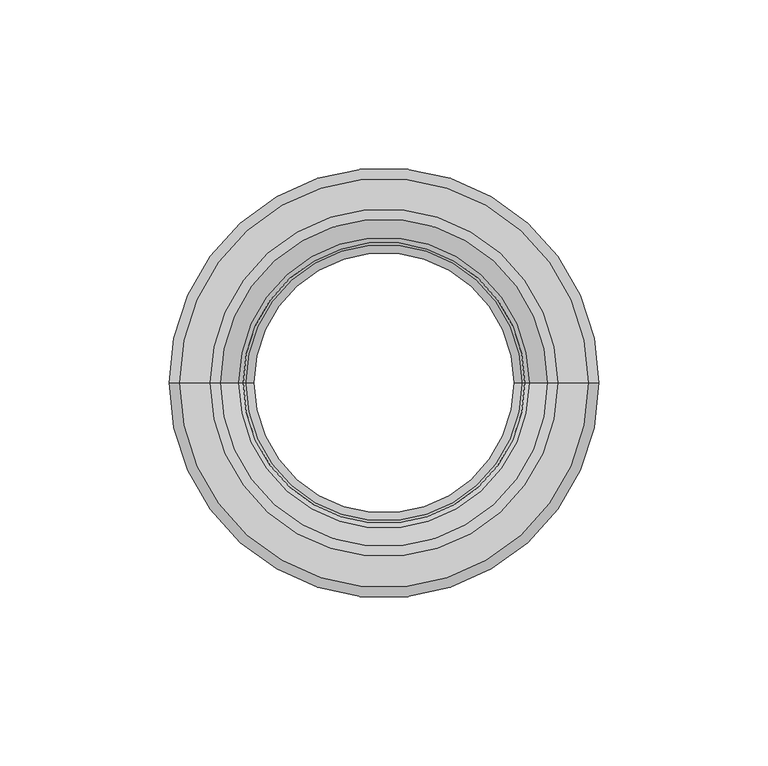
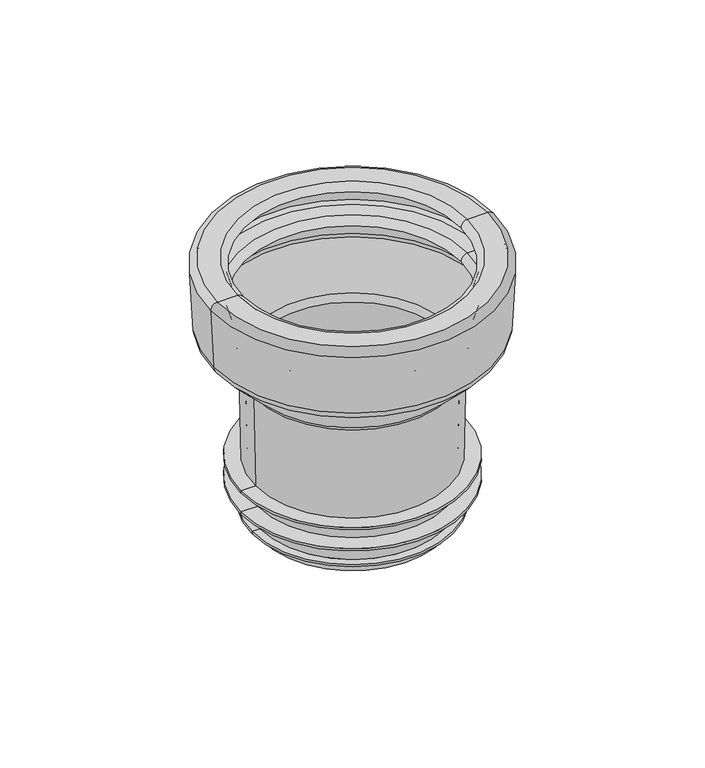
"""IFC4 building model written with IfcOpenShell, lengths in millimetres: sanitary terminal geometry, RSen_52_PIF_UN_closet connector no.2_wisa : closet connector_wisa_no 2 white."""

from ifc_helpers import new_model, si_unit, point, frame, origin, origin_with_axes, place, context, project, spatial, polyline, circle_curve, ellipse_curve, trimmed, source, transform, mapped, element, save
from ifc_brep_helpers import plane_surface, cylinder_surface, revolved_surface, advanced_brep


def sanitary_terminal_77a10053(model_context):
    return source(origin(), model_context, "Body", "AdvancedBrep", [
        advanced_brep(
        [(-40.5, 0.0, -115.0), (40.5, 0.0, -115.0), (40.5, 0.0, -120.0), (-40.5, 0.0, -120.0), (-45.0, 0.0, -115.0), (45.0, 0.0, -115.0), (-45.0, 0.0, -114.0), (45.0, 0.0, -114.0), (-41.5, 0.0, -114.0), (41.5, 0.0, -114.0), (-41.5, 0.0, -104.0), (41.5, 0.0, -104.0), (-50.0, 0.0, -104.0), (50.0, 0.0, -104.0), (-50.0, 0.0, -103.0), (50.0, 0.0, -103.0), (-42.5347753, 0.0, -103.0), (42.5347753, 0.0, -103.0), (-42.5347753, 0.0, -94.0), (42.5347753, 0.0, -94.0), (-50.0, 0.0, -94.0), (50.0, 0.0, -94.0), (-50.0, 0.0, -93.0), (50.0, 0.0, -93.0), (-43.5, 0.0, -93.0), (43.5, 0.0, -93.0), (-44.2364653, 0.0, -50.8079294), (44.2364653, 0.0, -50.8079294), (-44.8219472, 0.0, -49.4286206), (44.8219472, 0.0, -49.4286206), (-60.7059634, 0.0, -33.5446044), (60.7059634, 0.0, -33.5446044), (-62.1635772, 0.0, -30.2707502), (62.1635772, 0.0, -30.2707502), (-63.5845482, 0.0, -3.1570079), (63.5845482, 0.0, -3.1570079), (-60.5886596, 0.0, 0.0), (60.5886596, 0.0, 0.0), (-51.5, 0.0, 0.0), (51.5, 0.0, 0.0), (-48.5, 0.0, -3.0), (48.5, 0.0, -3.0), (-49.3, 0.0, -3.0), (49.3, 0.0, -3.0), (-51.8882757, 0.0, -0.9627838), (51.8882757, 0.0, -0.9627838), (-59.1733581, 0.0, -1.3445787), (59.1733581, 0.0, -1.3445787), (-60.5927984, 0.0, -2.921027), (60.5927984, 0.0, -2.921027), (-59.9818559, 0.0, -14.5785039), (59.9818559, 0.0, -14.5785039), (-58.4839116, 0.0, -16.0), (58.4839116, 0.0, -16.0), (-51.5, 0.0, -16.0), (51.5, 0.0, -16.0), (-48.5, 0.0, -19.0), (48.5, 0.0, -19.0), (-49.3, 0.0, -19.0), (49.3, 0.0, -19.0), (-51.8882757, 0.0, -16.9627838), (51.8882757, 0.0, -16.9627838), (-58.3371304, 0.0, -17.3007539), (58.3371304, 0.0, -17.3007539), (-59.7565707, 0.0, -18.8772021), (59.7565707, 0.0, -18.8772021), (-59.1676886, 0.0, -30.1137424), (59.1676886, 0.0, -30.1137424), (-58.5846431, 0.0, -31.423284), (58.5846431, 0.0, -31.423284), (-43.0734522, 0.0, -46.9344749), (43.0734522, 0.0, -46.9344749), (-41.6097476, 0.0, -50.3827468), (41.6097476, 0.0, -50.3827468), (-40.8667746, 0.0, -92.9476428), (40.8667746, 0.0, -92.9476428), (-38.5, 0.0, -120.0), (38.5, 0.0, -120.0)],
        [
            (0, 1, circle_curve(frame((0.0, 0.0, -115.0), z_axis=(0.0, 0.0, -1.0), x_axis=(1.0, 0.0, 0.0)), 40.5)),
            (1, 2),
            (2, 3, circle_curve(frame((0.0, 0.0, -120.0), z_axis=(0.0, 0.0, 1.0), x_axis=(1.0, 0.0, 0.0)), 40.5)),
            (3, 0),
            (1, 0, circle_curve(frame((0.0, 0.0, -115.0), z_axis=(0.0, 0.0, -1.0), x_axis=(1.0, 0.0, 0.0)), 40.5)),
            (3, 2, circle_curve(frame((0.0, 0.0, -120.0), z_axis=(0.0, 0.0, 1.0), x_axis=(1.0, 0.0, 0.0)), 40.5)),
            (4, 5, circle_curve(frame((0.0, 0.0, -115.0), z_axis=(0.0, 0.0, -1.0), x_axis=(1.0, 0.0, 0.0)), 45.0)),
            (5, 1),
            (0, 4),
            (5, 4, circle_curve(frame((0.0, 0.0, -115.0), z_axis=(0.0, 0.0, -1.0), x_axis=(1.0, 0.0, 0.0)), 45.0)),
            (6, 7, circle_curve(frame((0.0, 0.0, -114.0), z_axis=(0.0, 0.0, -1.0), x_axis=(1.0, 0.0, 0.0)), 45.0)),
            (7, 5),
            (4, 6),
            (7, 6, circle_curve(frame((0.0, 0.0, -114.0), z_axis=(0.0, 0.0, -1.0), x_axis=(1.0, 0.0, 0.0)), 45.0)),
            (8, 9, circle_curve(frame((0.0, 0.0, -114.0), z_axis=(0.0, 0.0, -1.0), x_axis=(1.0, 0.0, 0.0)), 41.5)),
            (9, 7),
            (6, 8),
            (9, 8, circle_curve(frame((0.0, 0.0, -114.0), z_axis=(0.0, 0.0, -1.0), x_axis=(1.0, 0.0, 0.0)), 41.5)),
            (10, 11, circle_curve(frame((0.0, 0.0, -104.0), z_axis=(0.0, 0.0, -1.0), x_axis=(1.0, 0.0, 0.0)), 41.5)),
            (11, 9),
            (8, 10),
            (11, 10, circle_curve(frame((0.0, 0.0, -104.0), z_axis=(0.0, 0.0, -1.0), x_axis=(1.0, 0.0, 0.0)), 41.5)),
            (12, 13, circle_curve(frame((0.0, 0.0, -104.0), z_axis=(0.0, 0.0, -1.0), x_axis=(1.0, 0.0, 0.0)), 50.0)),
            (13, 11),
            (10, 12),
            (13, 12, circle_curve(frame((0.0, 0.0, -104.0), z_axis=(0.0, 0.0, -1.0), x_axis=(1.0, 0.0, 0.0)), 50.0)),
            (14, 15, circle_curve(frame((0.0, 0.0, -103.0), z_axis=(0.0, 0.0, -1.0), x_axis=(1.0, 0.0, 0.0)), 50.0)),
            (15, 13),
            (12, 14),
            (15, 14, circle_curve(frame((0.0, 0.0, -103.0), z_axis=(0.0, 0.0, -1.0), x_axis=(1.0, 0.0, 0.0)), 50.0)),
            (16, 17, circle_curve(frame((0.0, 0.0, -103.0), z_axis=(0.0, 0.0, -1.0), x_axis=(1.0, 0.0, 0.0)), 42.5347753)),
            (17, 15),
            (14, 16),
            (17, 16, circle_curve(frame((0.0, 0.0, -103.0), z_axis=(0.0, 0.0, -1.0), x_axis=(1.0, 0.0, 0.0)), 42.5347753)),
            (18, 19, circle_curve(frame((0.0, 0.0, -94.0), z_axis=(0.0, 0.0, -1.0), x_axis=(1.0, 0.0, 0.0)), 42.5347753)),
            (19, 17),
            (16, 18),
            (19, 18, circle_curve(frame((0.0, 0.0, -94.0), z_axis=(0.0, 0.0, -1.0), x_axis=(1.0, 0.0, 0.0)), 42.5347753)),
            (20, 21, circle_curve(frame((0.0, 0.0, -94.0), z_axis=(0.0, 0.0, -1.0), x_axis=(1.0, 0.0, 0.0)), 50.0)),
            (21, 19),
            (18, 20),
            (21, 20, circle_curve(frame((0.0, 0.0, -94.0), z_axis=(0.0, 0.0, -1.0), x_axis=(1.0, 0.0, 0.0)), 50.0)),
            (22, 23, circle_curve(frame((0.0, 0.0, -93.0), z_axis=(0.0, 0.0, -1.0), x_axis=(1.0, 0.0, 0.0)), 50.0)),
            (23, 21),
            (20, 22),
            (23, 22, circle_curve(frame((0.0, 0.0, -93.0), z_axis=(0.0, 0.0, -1.0), x_axis=(1.0, 0.0, 0.0)), 50.0)),
            (24, 25, circle_curve(frame((0.0, 0.0, -93.0), z_axis=(0.0, 0.0, -1.0), x_axis=(1.0, 0.0, 0.0)), 43.5)),
            (25, 23),
            (22, 24),
            (25, 24, circle_curve(frame((0.0, 0.0, -93.0), z_axis=(0.0, 0.0, -1.0), x_axis=(1.0, 0.0, 0.0)), 43.5)),
            (26, 27, circle_curve(frame((0.0, 0.0, -50.8079294), z_axis=(0.0, 0.0, -1.0), x_axis=(1.0, 0.0, 0.0)), 44.2364653)),
            (27, 25),
            (24, 26),
            (27, 26, circle_curve(frame((0.0, 0.0, -50.8079294), z_axis=(0.0, 0.0, -1.0), x_axis=(1.0, 0.0, 0.0)), 44.2364653)),
            (28, 29, circle_curve(frame((0.0, 0.0, -49.4286206), z_axis=(0.0, 0.0, -1.0), x_axis=(1.0, 0.0, 0.0)), 44.8219472)),
            (29, 27, circle_curve(frame((46.2361607, 0.0, -50.8428342), z_axis=(0.0, -1.0, 0.0), x_axis=(1.0, 0.0, 0.0)), 2.0)),
            (26, 28, circle_curve(frame((-46.2361607, 0.0, -50.8428342), z_axis=(0.0, -1.0, 0.0), x_axis=(-1.0, 0.0, 0.0)), 2.0)),
            (29, 28, circle_curve(frame((0.0, 0.0, -49.4286206), z_axis=(0.0, 0.0, -1.0), x_axis=(1.0, 0.0, 0.0)), 44.8219472)),
            (30, 31, circle_curve(frame((0.0, 0.0, -33.5446044), z_axis=(0.0, 0.0, -1.0), x_axis=(1.0, 0.0, 0.0)), 60.7059634)),
            (31, 29),
            (28, 30),
            (31, 30, circle_curve(frame((0.0, 0.0, -33.5446044), z_axis=(0.0, 0.0, -1.0), x_axis=(1.0, 0.0, 0.0)), 60.7059634)),
            (32, 33, circle_curve(frame((0.0, 0.0, -30.2707502), z_axis=(0.0, 0.0, -1.0), x_axis=(1.0, 0.0, 0.0)), 62.1635772)),
            (33, 31, circle_curve(frame((57.1704295, 0.0, -30.0090705), z_axis=(0.0, 1.0, 0.0), x_axis=(1.0, 0.0, 0.0)), 5.0)),
            (30, 32, circle_curve(frame((-57.1704295, 0.0, -30.0090705), z_axis=(0.0, 1.0, 0.0), x_axis=(-1.0, 0.0, 0.0)), 5.0)),
            (33, 32, circle_curve(frame((0.0, 0.0, -30.2707502), z_axis=(0.0, 0.0, -1.0), x_axis=(1.0, 0.0, 0.0)), 62.1635772)),
            (34, 35, circle_curve(frame((0.0, 0.0, -3.1570079), z_axis=(0.0, 0.0, -1.0), x_axis=(1.0, 0.0, 0.0)), 63.5845482)),
            (35, 33),
            (32, 34),
            (35, 34, circle_curve(frame((0.0, 0.0, -3.1570079), z_axis=(0.0, 0.0, -1.0), x_axis=(1.0, 0.0, 0.0)), 63.5845482)),
            (36, 37, circle_curve(frame((0.0, 0.0, 0.0), z_axis=(0.0, 0.0, -1.0), x_axis=(1.0, 0.0, 0.0)), 60.5886596)),
            (37, 35, circle_curve(frame((60.5886596, 0.0, -3.0), z_axis=(0.0, 1.0, 0.0), x_axis=(1.0, 0.0, 0.0)), 3.0)),
            (34, 36, circle_curve(frame((-60.5886596, 0.0, -3.0), z_axis=(0.0, 1.0, 0.0), x_axis=(-1.0, 0.0, 0.0)), 3.0)),
            (37, 36, circle_curve(frame((0.0, 0.0, 0.0), z_axis=(0.0, 0.0, -1.0), x_axis=(1.0, 0.0, 0.0)), 60.5886596)),
            (38, 39, circle_curve(frame((0.0, 0.0, 0.0), z_axis=(0.0, 0.0, -1.0), x_axis=(1.0, 0.0, 0.0)), 51.5)),
            (39, 37),
            (36, 38),
            (39, 38, circle_curve(frame((0.0, 0.0, 0.0), z_axis=(0.0, 0.0, -1.0), x_axis=(1.0, 0.0, 0.0)), 51.5)),
            (40, 41, circle_curve(frame((0.0, 0.0, -3.0), z_axis=(0.0, 0.0, -1.0), x_axis=(1.0, 0.0, 0.0)), 48.5)),
            (41, 39, circle_curve(frame((51.5, 0.0, -3.0), z_axis=(0.0, 1.0, 0.0), x_axis=(1.0, 0.0, 0.0)), 3.0)),
            (38, 40, circle_curve(frame((-51.5, 0.0, -3.0), z_axis=(0.0, 1.0, 0.0), x_axis=(-1.0, 0.0, 0.0)), 3.0)),
            (41, 40, circle_curve(frame((0.0, 0.0, -3.0), z_axis=(0.0, 0.0, -1.0), x_axis=(1.0, 0.0, 0.0)), 48.5)),
            (42, 43, circle_curve(frame((0.0, 0.0, -3.0), z_axis=(0.0, 0.0, -1.0), x_axis=(1.0, 0.0, 0.0)), 49.3)),
            (43, 41),
            (40, 42),
            (43, 42, circle_curve(frame((0.0, 0.0, -3.0), z_axis=(0.0, 0.0, -1.0), x_axis=(1.0, 0.0, 0.0)), 49.3)),
            (44, 45, circle_curve(frame((0.0, 0.0, -0.9627838), z_axis=(0.0, 0.0, -1.0), x_axis=(1.0, 0.0, 0.0)), 51.8882757)),
            (45, 43, circle_curve(frame((51.7574358, 0.0, -3.4593576), z_axis=(0.0, -1.0, 0.0), x_axis=(1.0, 0.0, 0.0)), 2.5)),
            (42, 44, circle_curve(frame((-51.7574358, 0.0, -3.4593576), z_axis=(0.0, -1.0, 0.0), x_axis=(-1.0, 0.0, 0.0)), 2.5)),
            (45, 44, circle_curve(frame((0.0, 0.0, -0.9627838), z_axis=(0.0, 0.0, -1.0), x_axis=(1.0, 0.0, 0.0)), 51.8882757)),
            (46, 47, circle_curve(frame((0.0, 0.0, -1.3445787), z_axis=(0.0, 0.0, -1.0), x_axis=(1.0, 0.0, 0.0)), 59.1733581)),
            (47, 45),
            (44, 46),
            (47, 46, circle_curve(frame((0.0, 0.0, -1.3445787), z_axis=(0.0, 0.0, -1.0), x_axis=(1.0, 0.0, 0.0)), 59.1733581)),
            (48, 49, circle_curve(frame((0.0, 0.0, -2.921027), z_axis=(0.0, 0.0, -1.0), x_axis=(1.0, 0.0, 0.0)), 60.5927984)),
            (49, 47, circle_curve(frame((59.0948541, 0.0, -2.842523), z_axis=(0.0, -1.0, 0.0), x_axis=(1.0, 0.0, 0.0)), 1.5)),
            (46, 48, circle_curve(frame((-59.0948541, 0.0, -2.842523), z_axis=(0.0, -1.0, 0.0), x_axis=(-1.0, 0.0, 0.0)), 1.5)),
            (49, 48, circle_curve(frame((0.0, 0.0, -2.921027), z_axis=(0.0, 0.0, -1.0), x_axis=(1.0, 0.0, 0.0)), 60.5927984)),
            (50, 51, circle_curve(frame((0.0, 0.0, -14.5785039), z_axis=(0.0, 0.0, -1.0), x_axis=(1.0, 0.0, 0.0)), 59.9818559)),
            (51, 49),
            (48, 50),
            (51, 50, circle_curve(frame((0.0, 0.0, -14.5785039), z_axis=(0.0, 0.0, -1.0), x_axis=(1.0, 0.0, 0.0)), 59.9818559)),
            (52, 53, circle_curve(frame((0.0, 0.0, -16.0), z_axis=(0.0, 0.0, -1.0), x_axis=(1.0, 0.0, 0.0)), 58.4839116)),
            (53, 51, circle_curve(frame((58.4839116, 0.0, -14.5), z_axis=(0.0, -1.0, 0.0), x_axis=(1.0, 0.0, 0.0)), 1.5)),
            (50, 52, circle_curve(frame((-58.4839116, 0.0, -14.5), z_axis=(0.0, -1.0, 0.0), x_axis=(-1.0, 0.0, 0.0)), 1.5)),
            (53, 52, circle_curve(frame((0.0, 0.0, -16.0), z_axis=(0.0, 0.0, -1.0), x_axis=(1.0, 0.0, 0.0)), 58.4839116)),
            (54, 55, circle_curve(frame((0.0, 0.0, -16.0), z_axis=(0.0, 0.0, -1.0), x_axis=(1.0, 0.0, 0.0)), 51.5)),
            (55, 53),
            (52, 54),
            (55, 54, circle_curve(frame((0.0, 0.0, -16.0), z_axis=(0.0, 0.0, -1.0), x_axis=(1.0, 0.0, 0.0)), 51.5)),
            (56, 57, circle_curve(frame((0.0, 0.0, -19.0), z_axis=(0.0, 0.0, -1.0), x_axis=(1.0, 0.0, 0.0)), 48.5)),
            (57, 55, circle_curve(frame((51.5, 0.0, -19.0), z_axis=(0.0, 1.0, 0.0), x_axis=(1.0, 0.0, 0.0)), 3.0)),
            (54, 56, circle_curve(frame((-51.5, 0.0, -19.0), z_axis=(0.0, 1.0, 0.0), x_axis=(-1.0, 0.0, 0.0)), 3.0)),
            (57, 56, circle_curve(frame((0.0, 0.0, -19.0), z_axis=(0.0, 0.0, -1.0), x_axis=(1.0, 0.0, 0.0)), 48.5)),
            (58, 59, circle_curve(frame((0.0, 0.0, -19.0), z_axis=(0.0, 0.0, -1.0), x_axis=(1.0, 0.0, 0.0)), 49.3)),
            (59, 57),
            (56, 58),
            (59, 58, circle_curve(frame((0.0, 0.0, -19.0), z_axis=(0.0, 0.0, -1.0), x_axis=(1.0, 0.0, 0.0)), 49.3)),
            (60, 61, circle_curve(frame((0.0, 0.0, -16.9627838), z_axis=(0.0, 0.0, -1.0), x_axis=(1.0, 0.0, 0.0)), 51.8882757)),
            (61, 59, circle_curve(frame((51.7574358, 0.0, -19.4593576), z_axis=(0.0, -1.0, 0.0), x_axis=(1.0, 0.0, 0.0)), 2.5)),
            (58, 60, circle_curve(frame((-51.7574358, 0.0, -19.4593576), z_axis=(0.0, -1.0, 0.0), x_axis=(-1.0, 0.0, 0.0)), 2.5)),
            (61, 60, circle_curve(frame((0.0, 0.0, -16.9627838), z_axis=(0.0, 0.0, -1.0), x_axis=(1.0, 0.0, 0.0)), 51.8882757)),
            (62, 63, circle_curve(frame((0.0, 0.0, -17.3007539), z_axis=(0.0, 0.0, -1.0), x_axis=(1.0, 0.0, 0.0)), 58.3371304)),
            (63, 61),
            (60, 62),
            (63, 62, circle_curve(frame((0.0, 0.0, -17.3007539), z_axis=(0.0, 0.0, -1.0), x_axis=(1.0, 0.0, 0.0)), 58.3371304)),
            (64, 65, circle_curve(frame((0.0, 0.0, -18.8772021), z_axis=(0.0, 0.0, -1.0), x_axis=(1.0, 0.0, 0.0)), 59.7565707)),
            (65, 63, circle_curve(frame((58.2586264, 0.0, -18.7986982), z_axis=(0.0, -1.0, 0.0), x_axis=(1.0, 0.0, 0.0)), 1.5)),
            (62, 64, circle_curve(frame((-58.2586264, 0.0, -18.7986982), z_axis=(0.0, -1.0, 0.0), x_axis=(-1.0, 0.0, 0.0)), 1.5)),
            (65, 64, circle_curve(frame((0.0, 0.0, -18.8772021), z_axis=(0.0, 0.0, -1.0), x_axis=(1.0, 0.0, 0.0)), 59.7565707)),
            (66, 67, circle_curve(frame((0.0, 0.0, -30.1137424), z_axis=(0.0, 0.0, -1.0), x_axis=(1.0, 0.0, 0.0)), 59.1676886)),
            (67, 65),
            (64, 66),
            (67, 66, circle_curve(frame((0.0, 0.0, -30.1137424), z_axis=(0.0, 0.0, -1.0), x_axis=(1.0, 0.0, 0.0)), 59.1676886)),
            (68, 69, circle_curve(frame((0.0, 0.0, -31.423284), z_axis=(0.0, 0.0, -1.0), x_axis=(1.0, 0.0, 0.0)), 58.5846431)),
            (69, 67, circle_curve(frame((57.1704295, 0.0, -30.0090705), z_axis=(0.0, -1.0, 0.0), x_axis=(1.0, 0.0, 0.0)), 2.0)),
            (66, 68, circle_curve(frame((-57.1704295, 0.0, -30.0090705), z_axis=(0.0, -1.0, 0.0), x_axis=(-1.0, 0.0, 0.0)), 2.0)),
            (69, 68, circle_curve(frame((0.0, 0.0, -31.423284), z_axis=(0.0, 0.0, -1.0), x_axis=(1.0, 0.0, 0.0)), 58.5846431)),
            (70, 71, circle_curve(frame((0.0, 0.0, -46.9344749), z_axis=(0.0, 0.0, -1.0), x_axis=(1.0, 0.0, 0.0)), 43.0734522)),
            (71, 69),
            (68, 70),
            (71, 70, circle_curve(frame((0.0, 0.0, -46.9344749), z_axis=(0.0, 0.0, -1.0), x_axis=(1.0, 0.0, 0.0)), 43.0734522)),
            (72, 73, circle_curve(frame((0.0, 0.0, -50.3827468), z_axis=(0.0, 0.0, -1.0), x_axis=(1.0, 0.0, 0.0)), 41.6097476)),
            (73, 71, circle_curve(frame((46.6089861, 0.0, -50.4700088), z_axis=(0.0, 1.0, 0.0), x_axis=(1.0, 0.0, 0.0)), 5.0)),
            (70, 72, circle_curve(frame((-46.6089861, 0.0, -50.4700088), z_axis=(0.0, 1.0, 0.0), x_axis=(-1.0, 0.0, 0.0)), 5.0)),
            (73, 72, circle_curve(frame((0.0, 0.0, -50.3827468), z_axis=(0.0, 0.0, -1.0), x_axis=(1.0, 0.0, 0.0)), 41.6097476)),
            (74, 75, circle_curve(frame((0.0, 0.0, -92.9476428), z_axis=(0.0, 0.0, -1.0), x_axis=(1.0, 0.0, 0.0)), 40.8667746)),
            (75, 73),
            (72, 74),
            (75, 74, circle_curve(frame((0.0, 0.0, -92.9476428), z_axis=(0.0, 0.0, -1.0), x_axis=(1.0, 0.0, 0.0)), 40.8667746)),
            (76, 77, circle_curve(frame((0.0, 0.0, -120.0), z_axis=(0.0, 0.0, -1.0), x_axis=(1.0, 0.0, 0.0)), 38.5)),
            (77, 75),
            (74, 76),
            (77, 76, circle_curve(frame((0.0, 0.0, -120.0), z_axis=(0.0, 0.0, -1.0), x_axis=(1.0, 0.0, 0.0)), 38.5)),
            (2, 77),
            (76, 3),
        ],
        [
            cylinder_surface(frame((0.0, 0.0, 175.0), z_axis=(0.0, 0.0, 1.0), x_axis=(1.0, 0.0, 0.0)), 40.5),
            plane_surface(frame((0.0, 0.0, -115.0), z_axis=(0.0, 0.0, -1.0), x_axis=(1.0, 0.0, 0.0))),
            cylinder_surface(frame((0.0, 0.0, 175.0), z_axis=(0.0, 0.0, 1.0), x_axis=(1.0, 0.0, 0.0)), 45.0),
            plane_surface(frame((0.0, 0.0, -114.0), z_axis=(0.0, 0.0, 1.0), x_axis=(1.0, 0.0, 0.0))),
            cylinder_surface(frame((0.0, 0.0, 175.0), z_axis=(0.0, 0.0, 1.0), x_axis=(1.0, 0.0, 0.0)), 41.5),
            plane_surface(frame((0.0, 0.0, -104.0), z_axis=(0.0, 0.0, -1.0), x_axis=(1.0, 0.0, 0.0))),
            cylinder_surface(frame((0.0, 0.0, 175.0), z_axis=(0.0, 0.0, 1.0), x_axis=(1.0, 0.0, 0.0)), 50.0),
            plane_surface(frame((0.0, 0.0, -103.0), z_axis=(0.0, 0.0, 1.0), x_axis=(1.0, 0.0, 0.0))),
            cylinder_surface(frame((0.0, 0.0, 175.0), z_axis=(0.0, 0.0, 1.0), x_axis=(1.0, 0.0, 0.0)), 42.5347753),
            plane_surface(frame((0.0, 0.0, -94.0), z_axis=(0.0, 0.0, -1.0), x_axis=(1.0, 0.0, 0.0))),
            plane_surface(frame((0.0, 0.0, -93.0), z_axis=(0.0, 0.0, 1.0), x_axis=(1.0, 0.0, 0.0))),
            revolved_surface(polyline([(43.5, 0.0, -93.0), (44.2364653, 0.0, -50.8079294)]), (0.0, 0.0, 175.0), (0.0, 0.0, 1.0)),
            revolved_surface(trimmed(ellipse_curve(frame((46.2361607, 0.0, -50.8428342), z_axis=(0.0, 1.0, 0.0), x_axis=(1.0, 0.0, 0.0)), 2.0, 2.0), [point((44.2364653, 0.0, -50.8079294))], [point((44.8219472, 0.0, -49.4286206))], True, "CARTESIAN"), (0.0, 0.0, 175.0), (0.0, 0.0, 1.0)),
            revolved_surface(polyline([(44.8219472, 0.0, -49.4286206), (60.7059634, 0.0, -33.5446044)]), (0.0, 0.0, 175.0), (0.0, 0.0, 1.0)),
            revolved_surface(trimmed(ellipse_curve(frame((57.1704295, 0.0, -30.0090705), z_axis=(0.0, -1.0, 0.0), x_axis=(1.0, 0.0, 0.0)), 5.0, 5.0), [point((60.7059634, 0.0, -33.5446044))], [point((62.1635772, 0.0, -30.2707502))], True, "CARTESIAN"), (0.0, 0.0, 175.0), (0.0, 0.0, 1.0)),
            revolved_surface(polyline([(62.1635772, 0.0, -30.2707502), (63.5845482, 0.0, -3.1570079)]), (0.0, 0.0, 175.0), (0.0, 0.0, 1.0)),
            revolved_surface(trimmed(ellipse_curve(frame((60.5886596, 0.0, -3.0), z_axis=(0.0, -1.0, 0.0), x_axis=(1.0, 0.0, 0.0)), 3.0, 3.0), [point((63.5845482, 0.0, -3.1570079))], [point((60.5886596, 0.0, 0.0))], True, "CARTESIAN"), (0.0, 0.0, 175.0), (0.0, 0.0, 1.0)),
            plane_surface(origin_with_axes()),
            revolved_surface(trimmed(ellipse_curve(frame((51.5, 0.0, -3.0), z_axis=(0.0, -1.0, 0.0), x_axis=(1.0, 0.0, 0.0)), 3.0, 3.0), [point((51.5, 0.0, 0.0))], [point((48.5, 0.0, -3.0))], True, "CARTESIAN"), (0.0, 0.0, 175.0), (0.0, 0.0, 1.0)),
            plane_surface(frame((0.0, 0.0, -3.0), z_axis=(0.0, 0.0, -1.0), x_axis=(1.0, 0.0, 0.0))),
            revolved_surface(trimmed(ellipse_curve(frame((51.7574358, 0.0, -3.4593576), z_axis=(0.0, 1.0, 0.0), x_axis=(1.0, 0.0, 0.0)), 2.5, 2.5), [point((49.3, 0.0, -3.0))], [point((51.8882757, 0.0, -0.9627838))], True, "CARTESIAN"), (0.0, 0.0, 175.0), (0.0, 0.0, 1.0)),
            revolved_surface(polyline([(51.8882757, 0.0, -0.9627838), (59.1733581, 0.0, -1.3445787)]), (0.0, 0.0, 175.0), (0.0, 0.0, 1.0)),
            revolved_surface(trimmed(ellipse_curve(frame((59.0948541, 0.0, -2.842523), z_axis=(0.0, 1.0, 0.0), x_axis=(1.0, 0.0, 0.0)), 1.5, 1.5), [point((59.1733581, 0.0, -1.3445787))], [point((60.5927984, 0.0, -2.921027))], True, "CARTESIAN"), (0.0, 0.0, 175.0), (0.0, 0.0, 1.0)),
            revolved_surface(polyline([(60.5927984, 0.0, -2.921027), (59.9818559, 0.0, -14.5785039)]), (0.0, 0.0, 175.0), (0.0, 0.0, 1.0)),
            revolved_surface(trimmed(ellipse_curve(frame((58.4839116, 0.0, -14.5), z_axis=(0.0, 1.0, 0.0), x_axis=(1.0, 0.0, 0.0)), 1.5, 1.5), [point((59.9818559, 0.0, -14.5785039))], [point((58.4839116, 0.0, -16.0))], True, "CARTESIAN"), (0.0, 0.0, 175.0), (0.0, 0.0, 1.0)),
            plane_surface(frame((0.0, 0.0, -16.0), z_axis=(0.0, 0.0, 1.0), x_axis=(1.0, 0.0, 0.0))),
            revolved_surface(trimmed(ellipse_curve(frame((51.5, 0.0, -19.0), z_axis=(0.0, -1.0, 0.0), x_axis=(1.0, 0.0, 0.0)), 3.0, 3.0), [point((51.5, 0.0, -16.0))], [point((48.5, 0.0, -19.0))], True, "CARTESIAN"), (0.0, 0.0, 175.0), (0.0, 0.0, 1.0)),
            plane_surface(frame((0.0, 0.0, -19.0), z_axis=(0.0, 0.0, -1.0), x_axis=(1.0, 0.0, 0.0))),
            revolved_surface(trimmed(ellipse_curve(frame((51.7574358, 0.0, -19.4593576), z_axis=(0.0, 1.0, 0.0), x_axis=(1.0, 0.0, 0.0)), 2.5, 2.5), [point((49.3, 0.0, -19.0))], [point((51.8882757, 0.0, -16.9627838))], True, "CARTESIAN"), (0.0, 0.0, 175.0), (0.0, 0.0, 1.0)),
            revolved_surface(polyline([(51.8882757, 0.0, -16.9627838), (58.3371304, 0.0, -17.3007539)]), (0.0, 0.0, 175.0), (0.0, 0.0, 1.0)),
            revolved_surface(trimmed(ellipse_curve(frame((58.2586264, 0.0, -18.7986982), z_axis=(0.0, 1.0, 0.0), x_axis=(1.0, 0.0, 0.0)), 1.5, 1.5), [point((58.3371304, 0.0, -17.3007539))], [point((59.7565707, 0.0, -18.8772021))], True, "CARTESIAN"), (0.0, 0.0, 175.0), (0.0, 0.0, 1.0)),
            revolved_surface(polyline([(59.7565707, 0.0, -18.8772021), (59.1676886, 0.0, -30.1137424)]), (0.0, 0.0, 175.0), (0.0, 0.0, 1.0)),
            revolved_surface(trimmed(ellipse_curve(frame((57.1704295, 0.0, -30.0090705), z_axis=(0.0, 1.0, 0.0), x_axis=(1.0, 0.0, 0.0)), 2.0, 2.0), [point((59.1676886, 0.0, -30.1137424))], [point((58.5846431, 0.0, -31.423284))], True, "CARTESIAN"), (0.0, 0.0, 175.0), (0.0, 0.0, 1.0)),
            revolved_surface(polyline([(58.5846431, 0.0, -31.423284), (43.0734522, 0.0, -46.9344749)]), (0.0, 0.0, 175.0), (0.0, 0.0, 1.0)),
            revolved_surface(trimmed(ellipse_curve(frame((46.6089861, 0.0, -50.4700088), z_axis=(0.0, -1.0, 0.0), x_axis=(1.0, 0.0, 0.0)), 5.0, 5.0), [point((43.0734522, 0.0, -46.9344749))], [point((41.6097476, 0.0, -50.3827468))], True, "CARTESIAN"), (0.0, 0.0, 175.0), (0.0, 0.0, 1.0)),
            revolved_surface(polyline([(41.6097476, 0.0, -50.3827468), (40.8667746, 0.0, -92.9476428)]), (0.0, 0.0, 175.0), (0.0, 0.0, 1.0)),
            revolved_surface(polyline([(40.8667746, 0.0, -92.9476428), (38.5, 0.0, -120.0)]), (0.0, 0.0, 175.0), (0.0, 0.0, 1.0)),
            plane_surface(frame((0.0, 0.0, -120.0), z_axis=(0.0, 0.0, -1.0), x_axis=(1.0, 0.0, 0.0))),
        ],
        [
            (0, [[1, 2, 3, 4]]),
            (0, [[5, -4, 6, -2]]),
            (1, [[7, 8, -1, 9]]),
            (1, [[10, -9, -5, -8]]),
            (2, [[11, 12, -7, 13]]),
            (2, [[14, -13, -10, -12]]),
            (3, [[15, 16, -11, 17]]),
            (3, [[18, -17, -14, -16]]),
            (4, [[19, 20, -15, 21]]),
            (4, [[22, -21, -18, -20]]),
            (5, [[23, 24, -19, 25]]),
            (5, [[26, -25, -22, -24]]),
            (6, [[27, 28, -23, 29]]),
            (6, [[30, -29, -26, -28]]),
            (7, [[31, 32, -27, 33]]),
            (7, [[34, -33, -30, -32]]),
            (8, [[35, 36, -31, 37]]),
            (8, [[38, -37, -34, -36]]),
            (9, [[39, 40, -35, 41]]),
            (9, [[42, -41, -38, -40]]),
            (6, [[43, 44, -39, 45]]),
            (6, [[46, -45, -42, -44]]),
            (10, [[47, 48, -43, 49]]),
            (10, [[50, -49, -46, -48]]),
            (11, [[51, 52, -47, 53]]),
            (11, [[54, -53, -50, -52]]),
            (12, [[55, 56, -51, 57]]),
            (12, [[58, -57, -54, -56]]),
            (13, [[59, 60, -55, 61]]),
            (13, [[62, -61, -58, -60]]),
            (14, [[63, 64, -59, 65]]),
            (14, [[66, -65, -62, -64]]),
            (15, [[67, 68, -63, 69]]),
            (15, [[70, -69, -66, -68]]),
            (16, [[71, 72, -67, 73]]),
            (16, [[74, -73, -70, -72]]),
            (17, [[75, 76, -71, 77]]),
            (17, [[78, -77, -74, -76]]),
            (18, [[79, 80, -75, 81]]),
            (18, [[82, -81, -78, -80]]),
            (19, [[83, 84, -79, 85]]),
            (19, [[86, -85, -82, -84]]),
            (20, [[87, 88, -83, 89]]),
            (20, [[90, -89, -86, -88]]),
            (21, [[91, 92, -87, 93]]),
            (21, [[94, -93, -90, -92]]),
            (22, [[95, 96, -91, 97]]),
            (22, [[98, -97, -94, -96]]),
            (23, [[99, 100, -95, 101]]),
            (23, [[102, -101, -98, -100]]),
            (24, [[103, 104, -99, 105]]),
            (24, [[106, -105, -102, -104]]),
            (25, [[107, 108, -103, 109]]),
            (25, [[110, -109, -106, -108]]),
            (26, [[111, 112, -107, 113]]),
            (26, [[114, -113, -110, -112]]),
            (27, [[115, 116, -111, 117]]),
            (27, [[118, -117, -114, -116]]),
            (28, [[119, 120, -115, 121]]),
            (28, [[122, -121, -118, -120]]),
            (29, [[123, 124, -119, 125]]),
            (29, [[126, -125, -122, -124]]),
            (30, [[127, 128, -123, 129]]),
            (30, [[130, -129, -126, -128]]),
            (31, [[131, 132, -127, 133]]),
            (31, [[134, -133, -130, -132]]),
            (32, [[135, 136, -131, 137]]),
            (32, [[138, -137, -134, -136]]),
            (33, [[139, 140, -135, 141]]),
            (33, [[142, -141, -138, -140]]),
            (34, [[143, 144, -139, 145]]),
            (34, [[146, -145, -142, -144]]),
            (35, [[147, 148, -143, 149]]),
            (35, [[150, -149, -146, -148]]),
            (36, [[151, 152, -147, 153]]),
            (36, [[154, -153, -150, -152]]),
            (37, [[-3, 155, -151, 156]]),
            (37, [[-6, -156, -154, -155]]),
        ],
    ),
    ])


if __name__ == "__main__":
    model = new_model("IFC4")
    model_context = context("Model", 3, world=origin())
    ifc_project = project(units=[si_unit("LENGTHUNIT", "METRE", prefix="MILLI")], contexts=[model_context])
    site = spatial("IfcSite", under=ifc_project)
    building = spatial("IfcBuilding", under=site)
    placement = place(None, origin())
    sanitary_terminal_shape = sanitary_terminal_77a10053(model_context)
    element("IfcSanitaryTerminal", 1, ObjectType="RSen_52_PIF_UN_closet connector no.2_wisa : closet connector_wisa_no 2 white", at=placement, inside=building, context=model_context, shape_type="MappedRepresentation", body=[
        mapped(sanitary_terminal_shape, transform((0.0, 0.0, 0.0), x_axis=(1.0, 0.0, 0.0), y_axis=(0.0, 1.0, 0.0), z_axis=(0.0, 0.0, 1.0))),
    ])
    save(model, "model.ifc")
